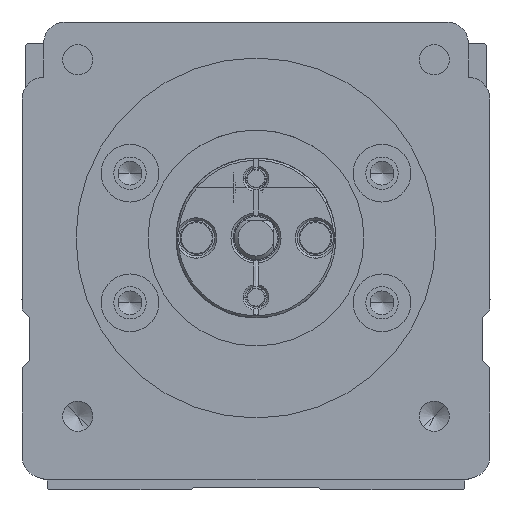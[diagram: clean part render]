
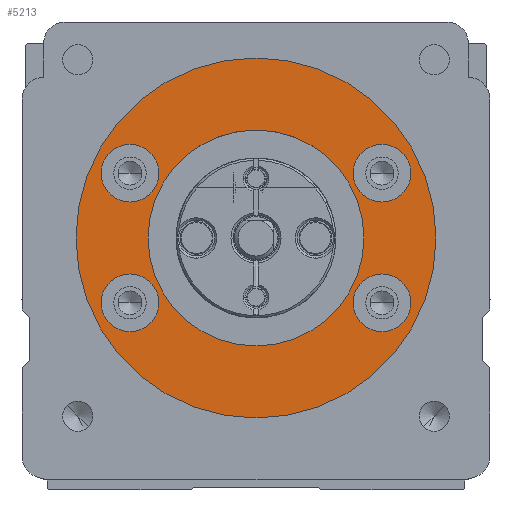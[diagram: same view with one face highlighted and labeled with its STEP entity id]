
A CAD part, front view. The second image highlights one B-rep face of the part: STEP entity #5213.
In plain terms, the highlighted planar face has unit normal (0, -1, 0).
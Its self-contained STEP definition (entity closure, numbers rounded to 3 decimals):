
#5213=ADVANCED_FACE('',(#11484,#11485,#11486,#11487,#11488,#11489),#11490,.F.);
#11484=FACE_BOUND('',#19776,.T.);
#11485=FACE_BOUND('',#19777,.T.);
#11486=FACE_BOUND('',#19778,.T.);
#11487=FACE_BOUND('',#19779,.T.);
#11488=FACE_BOUND('',#19780,.T.);
#11489=FACE_OUTER_BOUND('',#19781,.T.);
#11490=PLANE('',#19782);
#19776=EDGE_LOOP('',(#34442,#34443));
#19777=EDGE_LOOP('',(#34444,#34445));
#19778=EDGE_LOOP('',(#34446,#34447));
#19779=EDGE_LOOP('',(#34448,#34449));
#19780=EDGE_LOOP('',(#34450,#34451));
#19781=EDGE_LOOP('',(#34452,#34453));
#19782=AXIS2_PLACEMENT_3D('',#34454,#34455,#34456);
#34442=ORIENTED_EDGE('',*,*,#51143,.T.);
#34443=ORIENTED_EDGE('',*,*,#51168,.T.);
#34444=ORIENTED_EDGE('',*,*,#51735,.T.);
#34445=ORIENTED_EDGE('',*,*,#51736,.T.);
#34446=ORIENTED_EDGE('',*,*,#48139,.T.);
#34447=ORIENTED_EDGE('',*,*,#50338,.T.);
#34448=ORIENTED_EDGE('',*,*,#47858,.T.);
#34449=ORIENTED_EDGE('',*,*,#51737,.T.);
#34450=ORIENTED_EDGE('',*,*,#46568,.T.);
#34451=ORIENTED_EDGE('',*,*,#48144,.T.);
#34452=ORIENTED_EDGE('',*,*,#51738,.T.);
#34453=ORIENTED_EDGE('',*,*,#51739,.T.);
#34454=CARTESIAN_POINT('',(300.,65.,0.));
#34455=DIRECTION('',(0.,1.0,0.));
#34456=DIRECTION('',(1.0,0.,0.));
#46568=EDGE_CURVE('',#55368,#55366,#55369,.T.);
#47858=EDGE_CURVE('',#57649,#57647,#57650,.T.);
#48139=EDGE_CURVE('',#58125,#58123,#58126,.T.);
#48144=EDGE_CURVE('',#55366,#55368,#58132,.T.);
#50338=EDGE_CURVE('',#58123,#58125,#61707,.T.);
#51143=EDGE_CURVE('',#62886,#62884,#62887,.T.);
#51168=EDGE_CURVE('',#62884,#62886,#62922,.T.);
#51735=EDGE_CURVE('',#63726,#63727,#63728,.T.);
#51736=EDGE_CURVE('',#63727,#63726,#63729,.T.);
#51737=EDGE_CURVE('',#57647,#57649,#63730,.T.);
#51738=EDGE_CURVE('',#63731,#63732,#63733,.T.);
#51739=EDGE_CURVE('',#63732,#63731,#63734,.T.);
#55366=VERTEX_POINT('',#68088);
#55368=VERTEX_POINT('',#68091);
#55369=CIRCLE('',#68092,15.0);
#57647=VERTEX_POINT('',#71323);
#57649=VERTEX_POINT('',#71326);
#57650=CIRCLE('',#71327,4.0);
#58123=VERTEX_POINT('',#72016);
#58125=VERTEX_POINT('',#72019);
#58126=CIRCLE('',#72020,4.0);
#58132=CIRCLE('',#72027,15.0);
#61707=CIRCLE('',#77067,4.0);
#62884=VERTEX_POINT('',#78823);
#62886=VERTEX_POINT('',#78826);
#62887=CIRCLE('',#78827,4.0);
#62922=CIRCLE('',#78878,4.0);
#63726=VERTEX_POINT('',#80072);
#63727=VERTEX_POINT('',#80073);
#63728=CIRCLE('',#80074,4.0);
#63729=CIRCLE('',#80075,4.0);
#63730=CIRCLE('',#80076,4.0);
#63731=VERTEX_POINT('',#80077);
#63732=VERTEX_POINT('',#80078);
#63733=CIRCLE('',#80079,25.0);
#63734=CIRCLE('',#80080,25.0);
#68088=CARTESIAN_POINT('',(315.,65.,0.));
#68091=CARTESIAN_POINT('',(285.,65.,0.));
#68092=AXIS2_PLACEMENT_3D('',#85924,#85925,#85926);
#71323=CARTESIAN_POINT('',(313.5,65.,9.));
#71326=CARTESIAN_POINT('',(321.5,65.,9.));
#71327=AXIS2_PLACEMENT_3D('',#87790,#87791,#87792);
#72016=CARTESIAN_POINT('',(278.5,65.,9.));
#72019=CARTESIAN_POINT('',(286.5,65.,9.));
#72020=AXIS2_PLACEMENT_3D('',#88172,#88173,#88174);
#72027=AXIS2_PLACEMENT_3D('',#88182,#88183,#88184);
#77067=AXIS2_PLACEMENT_3D('',#91018,#91019,#91020);
#78823=CARTESIAN_POINT('',(278.5,65.,-9.));
#78826=CARTESIAN_POINT('',(286.5,65.,-9.));
#78827=AXIS2_PLACEMENT_3D('',#91988,#91989,#91990);
#78878=AXIS2_PLACEMENT_3D('',#92010,#92011,#92012);
#80072=CARTESIAN_POINT('',(321.5,65.,-9.));
#80073=CARTESIAN_POINT('',(313.5,65.,-9.));
#80074=AXIS2_PLACEMENT_3D('',#92713,#92714,#92715);
#80075=AXIS2_PLACEMENT_3D('',#92716,#92717,#92718);
#80076=AXIS2_PLACEMENT_3D('',#92719,#92720,#92721);
#80077=CARTESIAN_POINT('',(325.,65.,0.));
#80078=CARTESIAN_POINT('',(275.,65.,0.));
#80079=AXIS2_PLACEMENT_3D('',#92722,#92723,#92724);
#80080=AXIS2_PLACEMENT_3D('',#92725,#92726,#92727);
#85924=CARTESIAN_POINT('',(300.,65.,0.));
#85925=DIRECTION('',(0.,1.0,0.));
#85926=DIRECTION('',(1.0,0.,0.));
#87790=CARTESIAN_POINT('',(317.5,65.,9.));
#87791=DIRECTION('',(0.,1.0,0.));
#87792=DIRECTION('',(-1.0,0.,0.));
#88172=CARTESIAN_POINT('',(282.5,65.,9.));
#88173=DIRECTION('',(0.,1.0,0.));
#88174=DIRECTION('',(-1.0,0.,0.));
#88182=CARTESIAN_POINT('',(300.,65.,0.));
#88183=DIRECTION('',(0.,1.0,0.));
#88184=DIRECTION('',(1.0,0.,0.));
#91018=CARTESIAN_POINT('',(282.5,65.,9.));
#91019=DIRECTION('',(0.,1.0,0.));
#91020=DIRECTION('',(-1.0,0.,0.));
#91988=CARTESIAN_POINT('',(282.5,65.,-9.));
#91989=DIRECTION('',(0.,1.0,0.));
#91990=DIRECTION('',(-1.0,0.,0.));
#92010=CARTESIAN_POINT('',(282.5,65.,-9.));
#92011=DIRECTION('',(0.,1.0,0.));
#92012=DIRECTION('',(-1.0,0.,0.));
#92713=CARTESIAN_POINT('',(317.5,65.,-9.));
#92714=DIRECTION('',(0.,1.0,0.));
#92715=DIRECTION('',(-1.0,0.,0.));
#92716=CARTESIAN_POINT('',(317.5,65.,-9.));
#92717=DIRECTION('',(0.,1.0,0.));
#92718=DIRECTION('',(-1.0,0.,0.));
#92719=CARTESIAN_POINT('',(317.5,65.,9.));
#92720=DIRECTION('',(0.,1.0,0.));
#92721=DIRECTION('',(-1.0,0.,0.));
#92722=CARTESIAN_POINT('',(300.,65.,0.));
#92723=DIRECTION('',(0.,-1.0,0.));
#92724=DIRECTION('',(1.0,0.,0.));
#92725=CARTESIAN_POINT('',(300.,65.,0.));
#92726=DIRECTION('',(0.,-1.0,0.));
#92727=DIRECTION('',(1.0,0.,0.));
